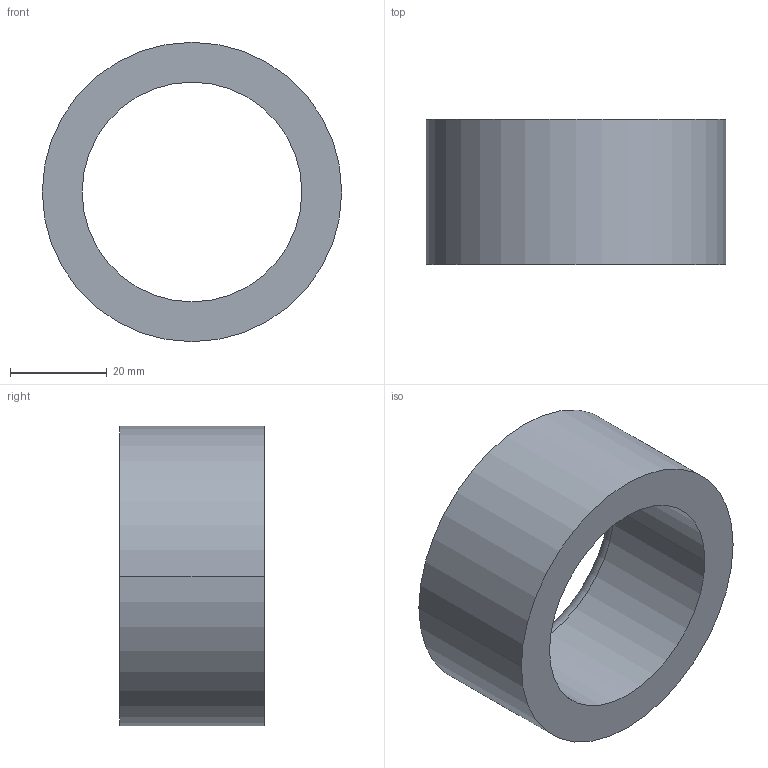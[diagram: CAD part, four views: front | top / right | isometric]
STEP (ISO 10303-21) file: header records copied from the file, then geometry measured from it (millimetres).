
FILE_DESCRIPTION (( 'STEP AP203' ), '1' );
FILE_NAME ('30800.WPP62L45.5.step', '2019-01-23T22:57:37', ( '' ), ( '' ), 'SwSTEP 2.0', 'SolidWorks 2017', '' );
FILE_SCHEMA (( 'CONFIG_CONTROL_DESIGN' ));
Length unit declared in the file: millimetre
Products named in the file (1): 30800.WPP62L45.5
Bounding box: 62 x 30 x 62 mm (x, y, z)
Volume: 41404.3 mm3; surface area: 12708.6 mm2
Topology: 1 solids, 1 shells, 8 faces, 16 edges, 10 vertices
Faces by surface type: cylinder 4, torus 2, plane 2
Entity records: 297 total; most frequent: DIRECTION 46, CARTESIAN_POINT 35, ORIENTED_EDGE 32, AXIS2_PLACEMENT_3D 21, EDGE_CURVE 16, CIRCLE 12, VERTEX_POINT 10, EDGE_LOOP 10
